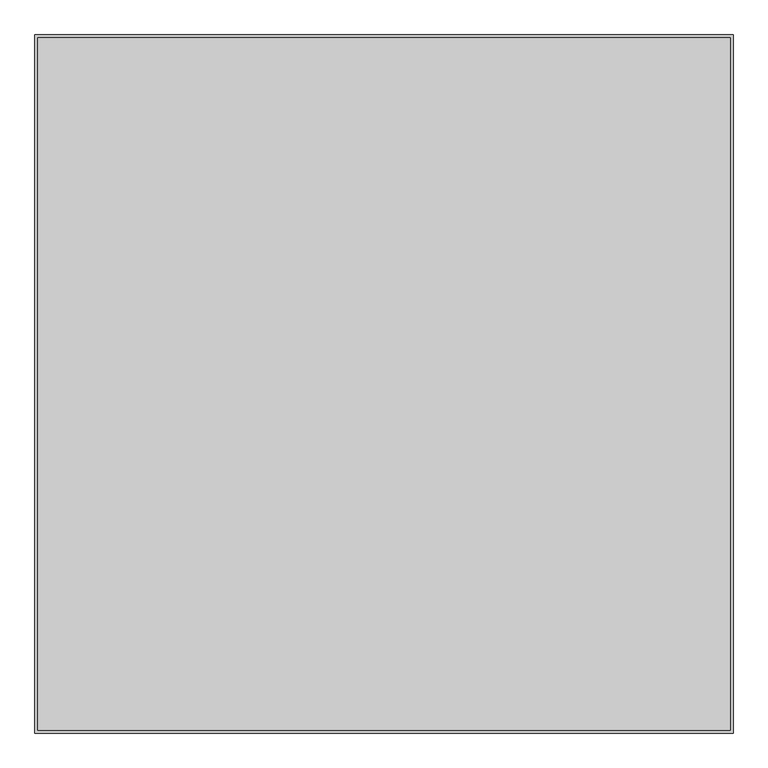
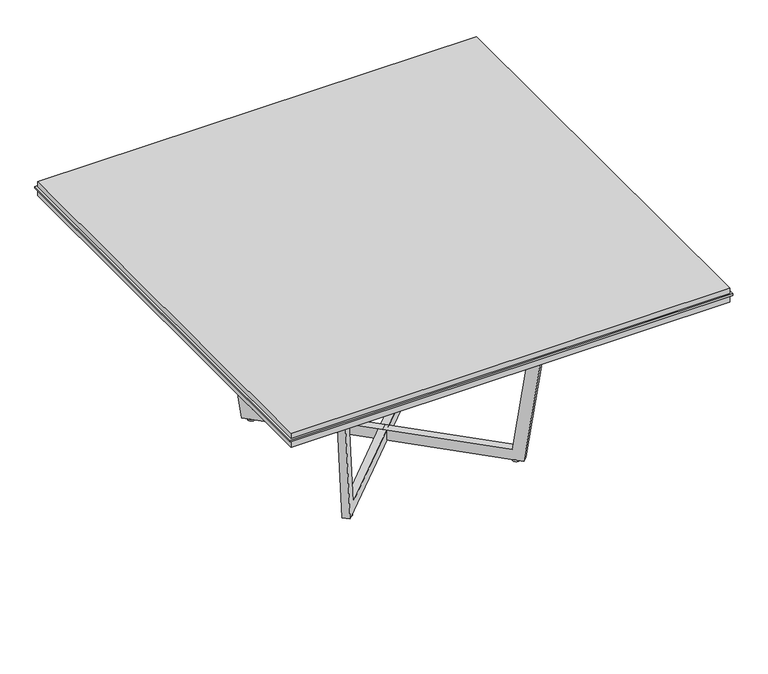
"""IFC4 building model written with IfcOpenShell, lengths in millimetres: furniture geometry, Knoll_Datesweiser_Tables_Meeting_Highline_Square : 60W Caesartone Open."""

from ifc_helpers import new_model, si_unit, point, frame, frame_2d, origin, origin_with_axes, place, context, project, spatial, polyline, circle_curve, trimmed, segment, composite_curve, outline, extrude, source, transform, mapped, element, save


def furniture_a8f1c13f(model_context):
    return source(origin(), model_context, "Body", "SweptSolid", [
        extrude(outline(polyline([(762.0, 762.0), (762.0, -762.0), (-762.0, -762.0), (-762.0, 762.0), (762.0, 762.0)])), frame((0.0, 0.0, 698.5), z_axis=(0.0, 0.0, 1.0), x_axis=(1.0, 0.0, 0.0)), (0.0, 0.0, 1.0), 25.4),
        extrude(outline(polyline([(762.0, 762.0), (762.0, -762.0), (-762.0, -762.0), (-762.0, 762.0), (762.0, 762.0)])), frame((0.0, 0.0, 730.25), z_axis=(0.0, 0.0, 1.0), x_axis=(1.0, 0.0, 0.0)), (0.0, 0.0, 1.0), 19.05),
        extrude(outline(polyline([(768.35, 768.35), (768.35, -768.35), (-768.35, -768.35), (-768.35, 768.35), (768.35, 768.35)])), frame((0.0, 0.0, 723.9), z_axis=(0.0, 0.0, 1.0), x_axis=(1.0, 0.0, 0.0)), (0.0, 0.0, 1.0), 6.35),
        extrude(outline(composite_curve([segment(trimmed(circle_curve(frame_2d((-291.4942533, -291.4942533)), 12.7), [point((-278.7942533, -291.4942533))], [point((-304.1942533, -291.4942533))], False, "CARTESIAN"), True, "CONTINUOUS"), segment(trimmed(circle_curve(frame_2d((-291.4942533, -291.4942533)), 12.7), [point((-304.1942533, -291.4942533))], [point((-278.7942533, -291.4942533))], False, "CARTESIAN"), True, "CONTINUOUS")], self_intersect=False)), origin_with_axes(), (0.0, 0.0, 1.0), 5.9867797),
        extrude(outline(composite_curve([segment(trimmed(circle_curve(frame_2d((-291.4942533, 291.4942533)), 12.7), [point((-278.7942533, 291.4942533))], [point((-304.1942533, 291.4942533))], False, "CARTESIAN"), True, "CONTINUOUS"), segment(trimmed(circle_curve(frame_2d((-291.4942533, 291.4942533)), 12.7), [point((-304.1942533, 291.4942533))], [point((-278.7942533, 291.4942533))], False, "CARTESIAN"), True, "CONTINUOUS")], self_intersect=False)), origin_with_axes(), (0.0, 0.0, 1.0), 5.9867797),
        extrude(outline(composite_curve([segment(trimmed(circle_curve(frame_2d((291.4942533, -291.4942533)), 12.7), [point((304.1942533, -291.4942533))], [point((278.7942533, -291.4942533))], False, "CARTESIAN"), True, "CONTINUOUS"), segment(trimmed(circle_curve(frame_2d((291.4942533, -291.4942533)), 12.7), [point((278.7942533, -291.4942533))], [point((304.1942533, -291.4942533))], False, "CARTESIAN"), True, "CONTINUOUS")], self_intersect=False)), origin_with_axes(), (0.0, 0.0, 1.0), 5.9867797),
        extrude(outline(composite_curve([segment(trimmed(circle_curve(frame_2d((291.4942533, 291.4942533)), 12.7), [point((304.1942533, 291.4942533))], [point((278.7942533, 291.4942533))], False, "CARTESIAN"), True, "CONTINUOUS"), segment(trimmed(circle_curve(frame_2d((291.4942533, 291.4942533)), 12.7), [point((278.7942533, 291.4942533))], [point((304.1942533, 291.4942533))], False, "CARTESIAN"), True, "CONTINUOUS")], self_intersect=False)), origin_with_axes(), (0.0, 0.0, 1.0), 5.9867797),
        extrude(outline(polyline([(-439.4001671, 0.0), (0.0, 0.0), (96.4493631, -692.7824981), (56.1900883, -692.7303535), (-34.9340039, -38.198535), (-439.448964, -37.6745992), (-843.9639241, -37.1506634), (-936.7832328, -691.4442349), (-977.0425076, -691.3920902), (-878.7988599, 1.1382376), (-439.4001671, 0.0)])), frame((301.7223211, -319.6828333, 5.8430302), z_axis=(0.7071067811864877, 0.7071067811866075, 0.0), x_axis=(0.7071061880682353, -0.7071061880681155, -0.001295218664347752)), (0.0, 0.0, 1.0), 25.4),
        extrude(outline(polyline([(439.4001671, 0.0), (878.7988599, 1.1382376), (977.0425076, -691.3920902), (936.7832328, -691.4442349), (843.9639241, -37.1506634), (439.448964, -37.6745992), (34.9340039, -38.198535), (-56.1900883, -692.7303535), (-96.4493631, -692.7824981), (0.0, 0.0), (439.4001671, 0.0)])), frame((-301.7223211, -319.6828333, 5.8430302), z_axis=(-0.707106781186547, 0.7071067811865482, 0.0), x_axis=(0.7071061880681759, 0.7071061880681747, 0.0012952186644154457)), (0.0, 0.0, 1.0), 25.4),
    ])


if __name__ == "__main__":
    model = new_model("IFC4")
    model_context = context("Model", 3, world=origin())
    ifc_project = project(units=[si_unit("LENGTHUNIT", "METRE", prefix="MILLI")], contexts=[model_context])
    site = spatial("IfcSite", under=ifc_project)
    building = spatial("IfcBuilding", under=site)
    placement = place(None, origin())
    furniture_shape = furniture_a8f1c13f(model_context)
    element("IfcFurniture", 1, ObjectType="Knoll_Datesweiser_Tables_Meeting_Highline_Square : 60W Caesartone Open", at=placement, inside=building, context=model_context, shape_type="MappedRepresentation", body=[
        mapped(furniture_shape, transform((0.0, 0.0, 0.0), x_axis=(1.0, 0.0, 0.0), y_axis=(0.0, 1.0, 0.0), z_axis=(0.0, 0.0, 1.0))),
    ])
    save(model, "model.ifc")
